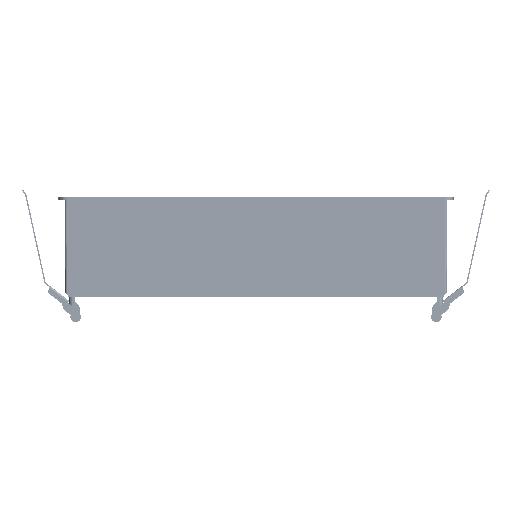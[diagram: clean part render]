
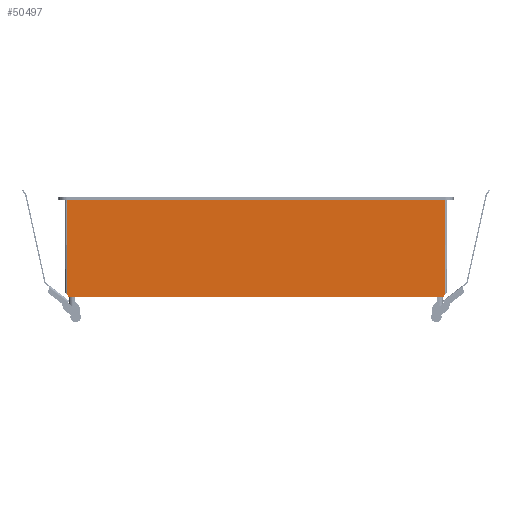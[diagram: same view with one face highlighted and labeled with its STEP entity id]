
A CAD part, front view. The second image highlights one B-rep face of the part: STEP entity #50497.
In plain terms, the highlighted planar face has unit normal (0, -1, -0.006).
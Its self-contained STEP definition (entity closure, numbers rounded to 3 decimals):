
#6249=PLANE('',#56054);
#9153=FACE_OUTER_BOUND('',#12293,.T.);
#12293=EDGE_LOOP('',(#45883,#45884,#45885,#45886,#45887,#45888));
#14284=LINE('',#161605,#16416);
#14300=LINE('',#161649,#16432);
#14305=LINE('',#161671,#16437);
#14338=LINE('',#161788,#16470);
#14364=LINE('',#161860,#16496);
#14365=LINE('',#161862,#16497);
#16416=VECTOR('',#67865,10.);
#16432=VECTOR('',#67903,10.);
#16437=VECTOR('',#67926,10.);
#16470=VECTOR('',#68053,10.);
#16496=VECTOR('',#68135,10.);
#16497=VECTOR('',#68138,10.);
#23765=VERTEX_POINT('',#161602);
#23766=VERTEX_POINT('',#161604);
#23782=VERTEX_POINT('',#161646);
#23783=VERTEX_POINT('',#161648);
#23791=VERTEX_POINT('',#161670);
#23828=VERTEX_POINT('',#161787);
#31126=EDGE_CURVE('',#23766,#23765,#14284,.T.);
#31148=EDGE_CURVE('',#23783,#23782,#14300,.T.);
#31159=EDGE_CURVE('',#23783,#23791,#14305,.T.);
#31217=EDGE_CURVE('',#23828,#23791,#14338,.T.);
#31254=EDGE_CURVE('',#23828,#23765,#14364,.T.);
#31255=EDGE_CURVE('',#23782,#23766,#14365,.F.);
#45883=ORIENTED_EDGE('',*,*,#31126,.T.);
#45884=ORIENTED_EDGE('',*,*,#31254,.F.);
#45885=ORIENTED_EDGE('',*,*,#31217,.T.);
#45886=ORIENTED_EDGE('',*,*,#31159,.F.);
#45887=ORIENTED_EDGE('',*,*,#31148,.T.);
#45888=ORIENTED_EDGE('',*,*,#31255,.T.);
#50497=ADVANCED_FACE('',(#9153),#6249,.T.);
#56054=AXIS2_PLACEMENT_3D('',#161861,#68136,#68137);
#67865=DIRECTION('',(0.643,-0.005,0.766));
#67903=DIRECTION('',(0.643,0.005,-0.766));
#67926=DIRECTION('',(0.,-0.006,1.));
#68053=DIRECTION('',(-1.,0.,0.));
#68135=DIRECTION('',(0.,0.006,-1.));
#68136=DIRECTION('center_axis',(0.,-1.,-0.006));
#68137=DIRECTION('ref_axis',(1.,0.,0.));
#68138=DIRECTION('',(-1.,0.,0.));
#161602=CARTESIAN_POINT('',(150.397,-18.984,1.756));
#161604=CARTESIAN_POINT('',(148.923,-18.974,0.));
#161605=CARTESIAN_POINT('',(88.158,-18.531,-72.417));
#161646=CARTESIAN_POINT('',(-148.923,-18.974,0.));
#161648=CARTESIAN_POINT('',(-150.397,-18.984,1.756));
#161649=CARTESIAN_POINT('',(-151.124,-18.99,2.622));
#161670=CARTESIAN_POINT('',(-150.397,-19.447,77.5));
#161671=CARTESIAN_POINT('',(-150.397,-18.974,0.001));
#161787=CARTESIAN_POINT('',(150.397,-19.447,77.5));
#161788=CARTESIAN_POINT('',(-76.199,-19.447,77.5));
#161860=CARTESIAN_POINT('',(150.397,-18.974,0.001));
#161861=CARTESIAN_POINT('Origin',(-152.397,-18.974,0.001));
#161862=CARTESIAN_POINT('',(-76.199,-18.974,0.));
